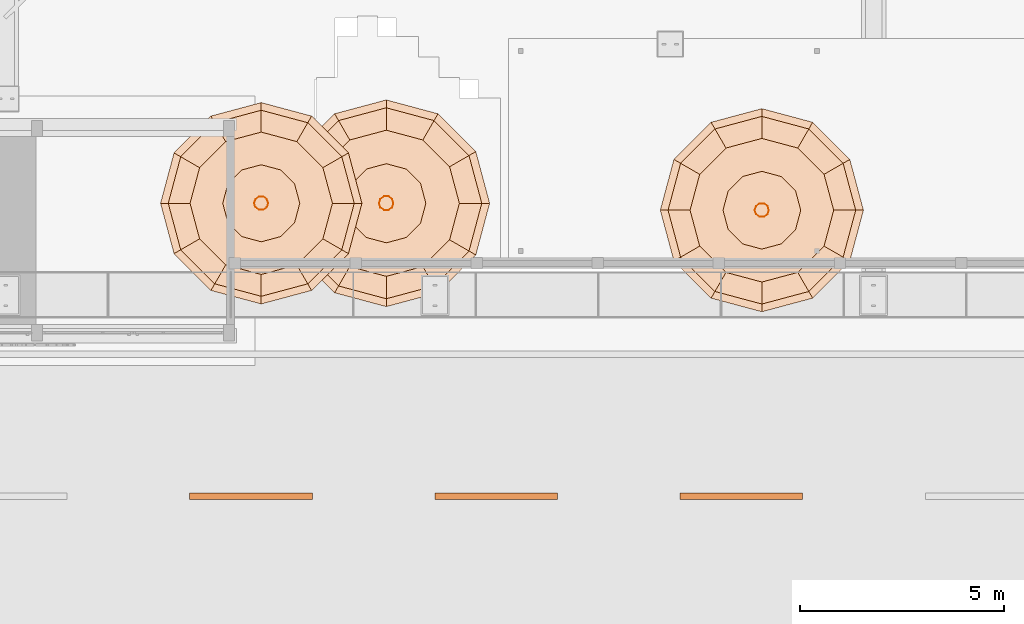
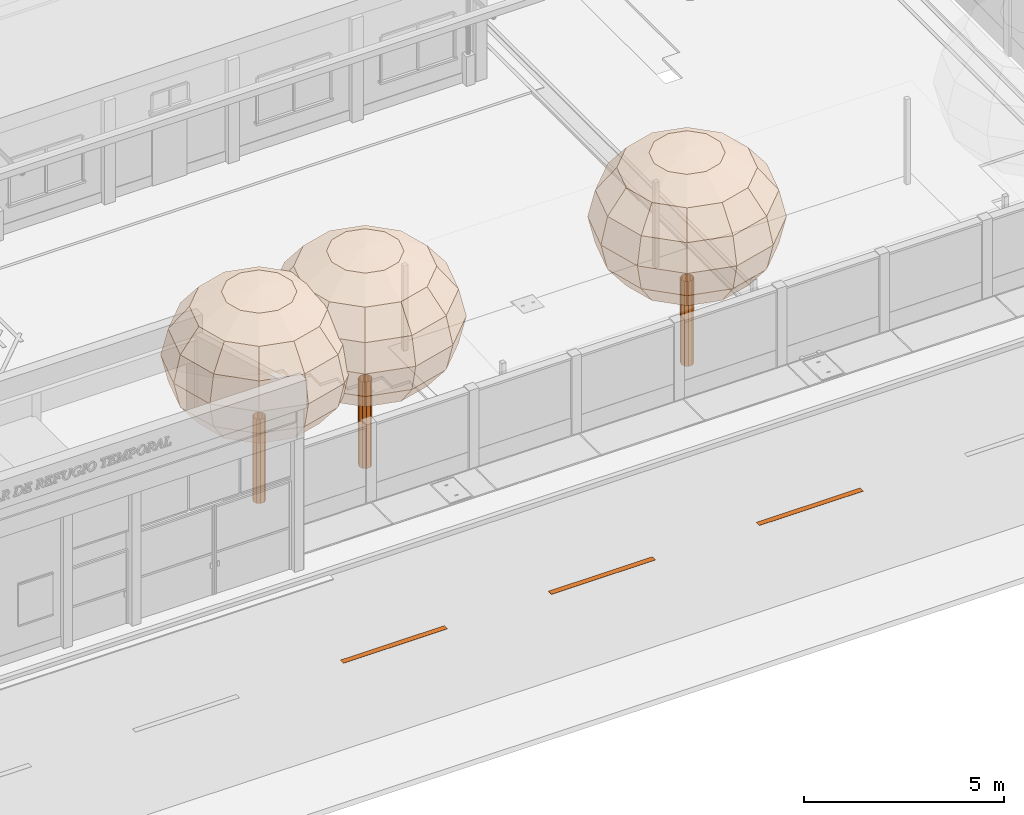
# One storey, part 157 of 177: 6 geographic elements, 3 proxies.
"""IFC4 building model written with IfcOpenShell, lengths in metres."""

from ifc_helpers import new_model, si_unit, origin, origin_with_axes, place, context, subcontext, project, spatial, triangles, element, save


model = new_model("IFC4")

# Units and contexts
model_context = context("Model", 3, precision=1e-05, world=origin_with_axes())
body_context = subcontext(model_context, "Body", "Model", "MODEL_VIEW")
ifc_project = project(units=[si_unit("LENGTHUNIT", "METRE"), si_unit("AREAUNIT", "SQUARE_METRE"), si_unit("VOLUMEUNIT", "CUBIC_METRE"), si_unit("PLANEANGLEUNIT", "RADIAN")], contexts=[model_context])

# Site, building, storey
site_placement = place(None, origin_with_axes())
site = spatial("IfcSite", under=ifc_project, at=site_placement, Name="Predio Los Mangos - Morales, San Martín", CompositionType="ELEMENT")
building_placement = place(site_placement, origin())
building = spatial("IfcBuilding", under=site, at=building_placement, Name="Hogar de Refugio Temporal", CompositionType="ELEMENT")
storey_placement = place(building_placement, origin())
storey = spatial("IfcBuildingStorey", under=building, at=storey_placement, Name="NIVEL 1 (NPT +0.00)", CompositionType="ELEMENT", Elevation=0.0)

# Proxies
proxy_1_placement = place(storey_placement, origin())
element("IfcBuildingElementProxy", 1, at=proxy_1_placement, inside=storey, Name="linea_carril", ObjectType="Losa deportiva y vía", PredefinedType="NOTDEFINED", context=body_context, shape_type="Tessellation", body=[
    triangles([(44.0, 12.22, 0.02), (47.0, 12.22, 0.02), (47.0, 12.38, 0.02), (44.0, 12.38, 0.02), (44.0, 12.22, 0.025), (47.0, 12.22, 0.025), (47.0, 12.38, 0.025), (44.0, 12.38, 0.025)], [[1, 4, 3], [1, 3, 2], [5, 6, 7], [5, 7, 8], [1, 2, 6], [1, 6, 5], [2, 3, 7], [2, 7, 6], [3, 4, 8], [3, 8, 7], [4, 1, 5], [4, 5, 8]]),
])
proxy_2_placement = place(storey_placement, origin())
element("IfcBuildingElementProxy", 2, at=proxy_2_placement, inside=storey, Name="linea_carril", ObjectType="Losa deportiva y vía", PredefinedType="NOTDEFINED", context=body_context, shape_type="Tessellation", body=[
    triangles([(50.0, 12.22, 0.02), (53.0, 12.22, 0.02), (53.0, 12.38, 0.02), (50.0, 12.38, 0.02), (50.0, 12.22, 0.025), (53.0, 12.22, 0.025), (53.0, 12.38, 0.025), (50.0, 12.38, 0.025)], [[1, 4, 3], [1, 3, 2], [5, 6, 7], [5, 7, 8], [1, 2, 6], [1, 6, 5], [2, 3, 7], [2, 7, 6], [3, 4, 8], [3, 8, 7], [4, 1, 5], [4, 5, 8]]),
])
proxy_3_placement = place(storey_placement, origin())
element("IfcBuildingElementProxy", 3, at=proxy_3_placement, inside=storey, Name="linea_carril", ObjectType="Losa deportiva y vía", PredefinedType="NOTDEFINED", context=body_context, shape_type="Tessellation", body=[
    triangles([(56.0, 12.22, 0.02), (59.0, 12.22, 0.02), (59.0, 12.38, 0.02), (56.0, 12.38, 0.02), (56.0, 12.22, 0.025), (59.0, 12.22, 0.025), (59.0, 12.38, 0.025), (56.0, 12.38, 0.025)], [[1, 4, 3], [1, 3, 2], [5, 6, 7], [5, 7, 8], [1, 2, 6], [1, 6, 5], [2, 3, 7], [2, 7, 6], [3, 4, 8], [3, 8, 7], [4, 1, 5], [4, 5, 8]]),
])

# Geographic elements
geographic_element_1_placement = place(storey_placement, origin())
element("IfcGeographicElement", 4, at=geographic_element_1_placement, inside=storey, Name="arbol_tronco", ObjectType="Árbol", PredefinedType="NOTDEFINED", context=body_context, shape_type="Tessellation", body=[
    triangles([(48.9859, 19.47, 0.0), (48.9523, 19.5734, 0.0), (48.8644, 19.6373, 0.0), (48.7556, 19.6373, 0.0), (48.6677, 19.5734, 0.0), (48.6341, 19.47, 0.0), (48.6677, 19.3666, 0.0), (48.7556, 19.3027, 0.0), (48.8644, 19.3027, 0.0), (48.9523, 19.3666, 0.0), (48.9859, 19.47, 2.6388), (48.9523, 19.5734, 2.6388), (48.8644, 19.6373, 2.6388), (48.7556, 19.6373, 2.6388), (48.6677, 19.5734, 2.6388), (48.6341, 19.47, 2.6388), (48.6677, 19.3666, 2.6388), (48.7556, 19.3027, 2.6388), (48.8644, 19.3027, 2.6388), (48.9523, 19.3666, 2.6388)], [[1, 2, 12], [2, 3, 13], [3, 4, 14], [4, 5, 15], [5, 6, 16], [6, 7, 17], [7, 8, 18], [8, 9, 19], [9, 10, 20], [10, 1, 11], [1, 12, 11], [2, 13, 12], [3, 14, 13], [4, 15, 14], [5, 16, 15], [6, 17, 16], [7, 18, 17], [8, 19, 18], [9, 20, 19], [10, 11, 20]]),
])
geographic_element_2_placement = place(storey_placement, origin())
element("IfcGeographicElement", 5, at=geographic_element_2_placement, inside=storey, Name="arbol_copa", ObjectType="Árbol", PredefinedType="NOTDEFINED", context=body_context, shape_type="Tessellation", body=[
    triangles([(48.81, 19.47, 6.6851), (48.81, 19.47, 6.6851), (48.81, 19.47, 6.6851), (48.81, 19.47, 6.6851), (48.81, 19.47, 6.6851), (48.81, 19.47, 6.6851), (48.81, 19.47, 6.6851), (48.81, 19.47, 6.6851), (48.81, 19.47, 6.6851), (48.81, 19.47, 6.6851), (48.81, 19.47, 6.6851), (48.81, 19.47, 6.6851), (49.7778, 19.47, 6.5215), (49.6481, 19.9539, 6.5215), (49.2939, 20.3081, 6.5215), (48.81, 20.4378, 6.5215), (48.3261, 20.3081, 6.5215), (47.9719, 19.9539, 6.5215), (47.8422, 19.47, 6.5215), (47.9719, 18.9861, 6.5215), (48.3261, 18.6319, 6.5215), (48.81, 18.5022, 6.5215), (49.2939, 18.6319, 6.5215), (49.6481, 18.9861, 6.5215), (50.5982, 19.47, 6.0555), (50.3586, 20.3641, 6.0555), (49.7041, 21.0186, 6.0555), (48.81, 21.2582, 6.0555), (47.9159, 21.0186, 6.0555), (47.2614, 20.3641, 6.0555), (47.0218, 19.47, 6.0555), (47.2614, 18.5759, 6.0555), (47.9159, 17.9214, 6.0555), (48.81, 17.6818, 6.0555), (49.7041, 17.9214, 6.0555), (50.3586, 18.5759, 6.0555), (51.1464, 19.47, 5.3581), (50.8334, 20.6382, 5.3581), (49.9782, 21.4934, 5.3581), (48.81, 21.8064, 5.3581), (47.6418, 21.4934, 5.3581), (46.7866, 20.6382, 5.3581), (46.4736, 19.47, 5.3581), (46.7866, 18.3018, 5.3581), (47.6418, 17.4466, 5.3581), (48.81, 17.1336, 5.3581), (49.9782, 17.4466, 5.3581), (50.8334, 18.3018, 5.3581), (51.3389, 19.47, 4.5355), (51.0001, 20.7344, 4.5355), (50.0744, 21.6601, 4.5355), (48.81, 21.9989, 4.5355), (47.5456, 21.6601, 4.5355), (46.6199, 20.7344, 4.5355), (46.2811, 19.47, 4.5355), (46.6199, 18.2056, 4.5355), (47.5456, 17.2799, 4.5355), (48.81, 16.9411, 4.5355), (50.0744, 17.2799, 4.5355), (51.0001, 18.2056, 4.5355), (51.1464, 19.47, 3.7129), (50.8334, 20.6382, 3.7129), (49.9782, 21.4934, 3.7129), (48.81, 21.8064, 3.7129), (47.6418, 21.4934, 3.7129), (46.7866, 20.6382, 3.7129), (46.4736, 19.47, 3.7129), (46.7866, 18.3018, 3.7129), (47.6418, 17.4466, 3.7129), (48.81, 17.1336, 3.7129), (49.9782, 17.4466, 3.7129), (50.8334, 18.3018, 3.7129), (50.5982, 19.47, 3.0156), (50.3586, 20.3641, 3.0156), (49.7041, 21.0186, 3.0156), (48.81, 21.2582, 3.0156), (47.9159, 21.0186, 3.0156), (47.2614, 20.3641, 3.0156), (47.0218, 19.47, 3.0156), (47.2614, 18.5759, 3.0156), (47.9159, 17.9214, 3.0156), (48.81, 17.6818, 3.0156), (49.7041, 17.9214, 3.0156), (50.3586, 18.5759, 3.0156), (49.7778, 19.47, 2.5496), (49.6481, 19.9539, 2.5496), (49.2939, 20.3081, 2.5496), (48.81, 20.4378, 2.5496), (48.3261, 20.3081, 2.5496), (47.9719, 19.9539, 2.5496), (47.8422, 19.47, 2.5496), (47.9719, 18.9861, 2.5496), (48.3261, 18.6319, 2.5496), (48.81, 18.5022, 2.5496), (49.2939, 18.6319, 2.5496), (49.6481, 18.9861, 2.5496), (48.81, 19.47, 2.386), (48.81, 19.47, 2.386), (48.81, 19.47, 2.386), (48.81, 19.47, 2.386), (48.81, 19.47, 2.386), (48.81, 19.47, 2.386), (48.81, 19.47, 2.386), (48.81, 19.47, 2.386), (48.81, 19.47, 2.386), (48.81, 19.47, 2.386), (48.81, 19.47, 2.386), (48.81, 19.47, 2.386)], [[1, 2, 14], [1, 14, 13], [2, 3, 15], [2, 15, 14], [3, 4, 16], [3, 16, 15], [4, 5, 17], [4, 17, 16], [5, 6, 18], [5, 18, 17], [6, 7, 19], [6, 19, 18], [7, 8, 20], [7, 20, 19], [8, 9, 21], [8, 21, 20], [9, 10, 22], [9, 22, 21], [10, 11, 23], [10, 23, 22], [11, 12, 24], [11, 24, 23], [12, 1, 13], [12, 13, 24], [13, 14, 26], [13, 26, 25], [14, 15, 27], [14, 27, 26], [15, 16, 28], [15, 28, 27], [16, 17, 29], [16, 29, 28], [17, 18, 30], [17, 30, 29], [18, 19, 31], [18, 31, 30], [19, 20, 32], [19, 32, 31], [20, 21, 33], [20, 33, 32], [21, 22, 34], [21, 34, 33], [22, 23, 35], [22, 35, 34], [23, 24, 36], [23, 36, 35], [24, 13, 25], [24, 25, 36], [25, 26, 38], [25, 38, 37], [26, 27, 39], [26, 39, 38], [27, 28, 40], [27, 40, 39], [28, 29, 41], [28, 41, 40], [29, 30, 42], [29, 42, 41], [30, 31, 43], [30, 43, 42], [31, 32, 44], [31, 44, 43], [32, 33, 45], [32, 45, 44], [33, 34, 46], [33, 46, 45], [34, 35, 47], [34, 47, 46], [35, 36, 48], [35, 48, 47], [36, 25, 37], [36, 37, 48], [37, 38, 50], [37, 50, 49], [38, 39, 51], [38, 51, 50], [39, 40, 52], [39, 52, 51], [40, 41, 53], [40, 53, 52], [41, 42, 54], [41, 54, 53], [42, 43, 55], [42, 55, 54], [43, 44, 56], [43, 56, 55], [44, 45, 57], [44, 57, 56], [45, 46, 58], [45, 58, 57], [46, 47, 59], [46, 59, 58], [47, 48, 60], [47, 60, 59], [48, 37, 49], [48, 49, 60], [49, 50, 62], [49, 62, 61], [50, 51, 63], [50, 63, 62], [51, 52, 64], [51, 64, 63], [52, 53, 65], [52, 65, 64], [53, 54, 66], [53, 66, 65], [54, 55, 67], [54, 67, 66], [55, 56, 68], [55, 68, 67], [56, 57, 69], [56, 69, 68], [57, 58, 70], [57, 70, 69], [58, 59, 71], [58, 71, 70], [59, 60, 72], [59, 72, 71], [60, 49, 61], [60, 61, 72], [61, 62, 74], [61, 74, 73], [62, 63, 75], [62, 75, 74], [63, 64, 76], [63, 76, 75], [64, 65, 77], [64, 77, 76], [65, 66, 78], [65, 78, 77], [66, 67, 79], [66, 79, 78], [67, 68, 80], [67, 80, 79], [68, 69, 81], [68, 81, 80], [69, 70, 82], [69, 82, 81], [70, 71, 83], [70, 83, 82], [71, 72, 84], [71, 84, 83], [72, 61, 73], [72, 73, 84], [73, 74, 86], [73, 86, 85], [74, 75, 87], [74, 87, 86], [75, 76, 88], [75, 88, 87], [76, 77, 89], [76, 89, 88], [77, 78, 90], [77, 90, 89], [78, 79, 91], [78, 91, 90], [79, 80, 92], [79, 92, 91], [80, 81, 93], [80, 93, 92], [81, 82, 94], [81, 94, 93], [82, 83, 95], [82, 95, 94], [83, 84, 96], [83, 96, 95], [84, 73, 85], [84, 85, 96], [85, 86, 98], [85, 98, 97], [86, 87, 99], [86, 99, 98], [87, 88, 100], [87, 100, 99], [88, 89, 101], [88, 101, 100], [89, 90, 102], [89, 102, 101], [90, 91, 103], [90, 103, 102], [91, 92, 104], [91, 104, 103], [92, 93, 105], [92, 105, 104], [93, 94, 106], [93, 106, 105], [94, 95, 107], [94, 107, 106], [95, 96, 108], [95, 108, 107], [96, 85, 97], [96, 97, 108]]),
])
geographic_element_3_placement = place(storey_placement, origin())
element("IfcGeographicElement", 6, at=geographic_element_3_placement, inside=storey, Name="arbol_tronco", ObjectType="Árbol", PredefinedType="NOTDEFINED", context=body_context, shape_type="Tessellation", body=[
    triangles([(45.9214, 19.47, 0.0), (45.8886, 19.5707, 0.0), (45.803, 19.633, 0.0), (45.697, 19.633, 0.0), (45.6114, 19.5707, 0.0), (45.5786, 19.47, 0.0), (45.6114, 19.3693, 0.0), (45.697, 19.307, 0.0), (45.803, 19.307, 0.0), (45.8886, 19.3693, 0.0), (45.9214, 19.47, 2.5706), (45.8886, 19.5707, 2.5706), (45.803, 19.633, 2.5706), (45.697, 19.633, 2.5706), (45.6114, 19.5707, 2.5706), (45.5786, 19.47, 2.5706), (45.6114, 19.3693, 2.5706), (45.697, 19.307, 2.5706), (45.803, 19.307, 2.5706), (45.8886, 19.3693, 2.5706)], [[1, 2, 12], [2, 3, 13], [3, 4, 14], [4, 5, 15], [5, 6, 16], [6, 7, 17], [7, 8, 18], [8, 9, 19], [9, 10, 20], [10, 1, 11], [1, 12, 11], [2, 13, 12], [3, 14, 13], [4, 15, 14], [5, 16, 15], [6, 17, 16], [7, 18, 17], [8, 19, 18], [9, 20, 19], [10, 11, 20]]),
])
geographic_element_4_placement = place(storey_placement, origin())
element("IfcGeographicElement", 7, at=geographic_element_4_placement, inside=storey, Name="arbol_copa", ObjectType="Árbol", PredefinedType="NOTDEFINED", context=body_context, shape_type="Tessellation", body=[
    triangles([(45.75, 19.47, 6.5122), (45.75, 19.47, 6.5122), (45.75, 19.47, 6.5122), (45.75, 19.47, 6.5122), (45.75, 19.47, 6.5122), (45.75, 19.47, 6.5122), (45.75, 19.47, 6.5122), (45.75, 19.47, 6.5122), (45.75, 19.47, 6.5122), (45.75, 19.47, 6.5122), (45.75, 19.47, 6.5122), (45.75, 19.47, 6.5122), (46.6927, 19.47, 6.3528), (46.5664, 19.9414, 6.3528), (46.2214, 20.2864, 6.3528), (45.75, 20.4127, 6.3528), (45.2786, 20.2864, 6.3528), (44.9336, 19.9414, 6.3528), (44.8073, 19.47, 6.3528), (44.9336, 18.9986, 6.3528), (45.2786, 18.6536, 6.3528), (45.75, 18.5273, 6.3528), (46.2214, 18.6536, 6.3528), (46.5664, 18.9986, 6.3528), (47.492, 19.47, 5.8989), (47.2586, 20.341, 5.8989), (46.621, 20.9786, 5.8989), (45.75, 21.212, 5.8989), (44.879, 20.9786, 5.8989), (44.2414, 20.341, 5.8989), (44.008, 19.47, 5.8989), (44.2414, 18.599, 5.8989), (44.879, 17.9614, 5.8989), (45.75, 17.728, 5.8989), (46.621, 17.9614, 5.8989), (47.2586, 18.599, 5.8989), (48.026, 19.47, 5.2196), (47.7211, 20.608, 5.2196), (46.888, 21.4411, 5.2196), (45.75, 21.746, 5.2196), (44.612, 21.4411, 5.2196), (43.7789, 20.608, 5.2196), (43.474, 19.47, 5.2196), (43.7789, 18.332, 5.2196), (44.612, 17.4989, 5.2196), (45.75, 17.194, 5.2196), (46.888, 17.4989, 5.2196), (47.7211, 18.332, 5.2196), (48.2135, 19.47, 4.4183), (47.8835, 20.7018, 4.4183), (46.9818, 21.6035, 4.4183), (45.75, 21.9335, 4.4183), (44.5182, 21.6035, 4.4183), (43.6165, 20.7018, 4.4183), (43.2865, 19.47, 4.4183), (43.6165, 18.2382, 4.4183), (44.5182, 17.3365, 4.4183), (45.75, 17.0065, 4.4183), (46.9818, 17.3365, 4.4183), (47.8835, 18.2382, 4.4183), (48.026, 19.47, 3.6169), (47.7211, 20.608, 3.6169), (46.888, 21.4411, 3.6169), (45.75, 21.746, 3.6169), (44.612, 21.4411, 3.6169), (43.7789, 20.608, 3.6169), (43.474, 19.47, 3.6169), (43.7789, 18.332, 3.6169), (44.612, 17.4989, 3.6169), (45.75, 17.194, 3.6169), (46.888, 17.4989, 3.6169), (47.7211, 18.332, 3.6169), (47.492, 19.47, 2.9376), (47.2586, 20.341, 2.9376), (46.621, 20.9786, 2.9376), (45.75, 21.212, 2.9376), (44.879, 20.9786, 2.9376), (44.2414, 20.341, 2.9376), (44.008, 19.47, 2.9376), (44.2414, 18.599, 2.9376), (44.879, 17.9614, 2.9376), (45.75, 17.728, 2.9376), (46.621, 17.9614, 2.9376), (47.2586, 18.599, 2.9376), (46.6927, 19.47, 2.4837), (46.5664, 19.9414, 2.4837), (46.2214, 20.2864, 2.4837), (45.75, 20.4127, 2.4837), (45.2786, 20.2864, 2.4837), (44.9336, 19.9414, 2.4837), (44.8073, 19.47, 2.4837), (44.9336, 18.9986, 2.4837), (45.2786, 18.6536, 2.4837), (45.75, 18.5273, 2.4837), (46.2214, 18.6536, 2.4837), (46.5664, 18.9986, 2.4837), (45.75, 19.47, 2.3243), (45.75, 19.47, 2.3243), (45.75, 19.47, 2.3243), (45.75, 19.47, 2.3243), (45.75, 19.47, 2.3243), (45.75, 19.47, 2.3243), (45.75, 19.47, 2.3243), (45.75, 19.47, 2.3243), (45.75, 19.47, 2.3243), (45.75, 19.47, 2.3243), (45.75, 19.47, 2.3243), (45.75, 19.47, 2.3243)], [[1, 2, 14], [1, 14, 13], [2, 3, 15], [2, 15, 14], [3, 4, 16], [3, 16, 15], [4, 5, 17], [4, 17, 16], [5, 6, 18], [5, 18, 17], [6, 7, 19], [6, 19, 18], [7, 8, 20], [7, 20, 19], [8, 9, 21], [8, 21, 20], [9, 10, 22], [9, 22, 21], [10, 11, 23], [10, 23, 22], [11, 12, 24], [11, 24, 23], [12, 1, 13], [12, 13, 24], [13, 14, 26], [13, 26, 25], [14, 15, 27], [14, 27, 26], [15, 16, 28], [15, 28, 27], [16, 17, 29], [16, 29, 28], [17, 18, 30], [17, 30, 29], [18, 19, 31], [18, 31, 30], [19, 20, 32], [19, 32, 31], [20, 21, 33], [20, 33, 32], [21, 22, 34], [21, 34, 33], [22, 23, 35], [22, 35, 34], [23, 24, 36], [23, 36, 35], [24, 13, 25], [24, 25, 36], [25, 26, 38], [25, 38, 37], [26, 27, 39], [26, 39, 38], [27, 28, 40], [27, 40, 39], [28, 29, 41], [28, 41, 40], [29, 30, 42], [29, 42, 41], [30, 31, 43], [30, 43, 42], [31, 32, 44], [31, 44, 43], [32, 33, 45], [32, 45, 44], [33, 34, 46], [33, 46, 45], [34, 35, 47], [34, 47, 46], [35, 36, 48], [35, 48, 47], [36, 25, 37], [36, 37, 48], [37, 38, 50], [37, 50, 49], [38, 39, 51], [38, 51, 50], [39, 40, 52], [39, 52, 51], [40, 41, 53], [40, 53, 52], [41, 42, 54], [41, 54, 53], [42, 43, 55], [42, 55, 54], [43, 44, 56], [43, 56, 55], [44, 45, 57], [44, 57, 56], [45, 46, 58], [45, 58, 57], [46, 47, 59], [46, 59, 58], [47, 48, 60], [47, 60, 59], [48, 37, 49], [48, 49, 60], [49, 50, 62], [49, 62, 61], [50, 51, 63], [50, 63, 62], [51, 52, 64], [51, 64, 63], [52, 53, 65], [52, 65, 64], [53, 54, 66], [53, 66, 65], [54, 55, 67], [54, 67, 66], [55, 56, 68], [55, 68, 67], [56, 57, 69], [56, 69, 68], [57, 58, 70], [57, 70, 69], [58, 59, 71], [58, 71, 70], [59, 60, 72], [59, 72, 71], [60, 49, 61], [60, 61, 72], [61, 62, 74], [61, 74, 73], [62, 63, 75], [62, 75, 74], [63, 64, 76], [63, 76, 75], [64, 65, 77], [64, 77, 76], [65, 66, 78], [65, 78, 77], [66, 67, 79], [66, 79, 78], [67, 68, 80], [67, 80, 79], [68, 69, 81], [68, 81, 80], [69, 70, 82], [69, 82, 81], [70, 71, 83], [70, 83, 82], [71, 72, 84], [71, 84, 83], [72, 61, 73], [72, 73, 84], [73, 74, 86], [73, 86, 85], [74, 75, 87], [74, 87, 86], [75, 76, 88], [75, 88, 87], [76, 77, 89], [76, 89, 88], [77, 78, 90], [77, 90, 89], [78, 79, 91], [78, 91, 90], [79, 80, 92], [79, 92, 91], [80, 81, 93], [80, 93, 92], [81, 82, 94], [81, 94, 93], [82, 83, 95], [82, 95, 94], [83, 84, 96], [83, 96, 95], [84, 73, 85], [84, 85, 96], [85, 86, 98], [85, 98, 97], [86, 87, 99], [86, 99, 98], [87, 88, 100], [87, 100, 99], [88, 89, 101], [88, 101, 100], [89, 90, 102], [89, 102, 101], [90, 91, 103], [90, 103, 102], [91, 92, 104], [91, 104, 103], [92, 93, 105], [92, 105, 104], [93, 94, 106], [93, 106, 105], [94, 95, 107], [94, 107, 106], [95, 96, 108], [95, 108, 107], [96, 85, 97], [96, 97, 108]]),
])
geographic_element_5_placement = place(storey_placement, origin())
element("IfcGeographicElement", 8, at=geographic_element_5_placement, inside=storey, Name="arbol_tronco", ObjectType="Árbol", PredefinedType="NOTDEFINED", context=body_context, shape_type="Tessellation", body=[
    triangles([(58.1729, 19.3, 0.0), (58.1399, 19.4016, 0.0), (58.0534, 19.4644, 0.0), (57.9466, 19.4644, 0.0), (57.8601, 19.4016, 0.0), (57.8271, 19.3, 0.0), (57.8601, 19.1984, 0.0), (57.9466, 19.1356, 0.0), (58.0534, 19.1356, 0.0), (58.1399, 19.1984, 0.0), (58.1729, 19.3, 2.593), (58.1399, 19.4016, 2.593), (58.0534, 19.4644, 2.593), (57.9466, 19.4644, 2.593), (57.8601, 19.4016, 2.593), (57.8271, 19.3, 2.593), (57.8601, 19.1984, 2.593), (57.9466, 19.1356, 2.593), (58.0534, 19.1356, 2.593), (58.1399, 19.1984, 2.593)], [[1, 2, 12], [2, 3, 13], [3, 4, 14], [4, 5, 15], [5, 6, 16], [6, 7, 17], [7, 8, 18], [8, 9, 19], [9, 10, 20], [10, 1, 11], [1, 12, 11], [2, 13, 12], [3, 14, 13], [4, 15, 14], [5, 16, 15], [6, 17, 16], [7, 18, 17], [8, 19, 18], [9, 20, 19], [10, 11, 20]]),
])
geographic_element_6_placement = place(storey_placement, origin())
element("IfcGeographicElement", 9, at=geographic_element_6_placement, inside=storey, Name="arbol_copa", ObjectType="Árbol", PredefinedType="NOTDEFINED", context=body_context, shape_type="Tessellation", body=[
    triangles([(58.0, 19.3, 6.5689), (58.0, 19.3, 6.5689), (58.0, 19.3, 6.5689), (58.0, 19.3, 6.5689), (58.0, 19.3, 6.5689), (58.0, 19.3, 6.5689), (58.0, 19.3, 6.5689), (58.0, 19.3, 6.5689), (58.0, 19.3, 6.5689), (58.0, 19.3, 6.5689), (58.0, 19.3, 6.5689), (58.0, 19.3, 6.5689), (58.951, 19.3, 6.4081), (58.8235, 19.7755, 6.4081), (58.4755, 20.1235, 6.4081), (58.0, 20.251, 6.4081), (57.5245, 20.1235, 6.4081), (57.1765, 19.7755, 6.4081), (57.049, 19.3, 6.4081), (57.1765, 18.8245, 6.4081), (57.5245, 18.4765, 6.4081), (58.0, 18.349, 6.4081), (58.4755, 18.4765, 6.4081), (58.8235, 18.8245, 6.4081), (59.7571, 19.3, 5.9503), (59.5217, 20.1786, 5.9503), (58.8786, 20.8217, 5.9503), (58.0, 21.0571, 5.9503), (57.1214, 20.8217, 5.9503), (56.4783, 20.1786, 5.9503), (56.2429, 19.3, 5.9503), (56.4783, 18.4214, 5.9503), (57.1214, 17.7783, 5.9503), (58.0, 17.5429, 5.9503), (58.8786, 17.7783, 5.9503), (59.5217, 18.4214, 5.9503), (60.2958, 19.3, 5.265), (59.9882, 20.4479, 5.265), (59.1479, 21.2882, 5.265), (58.0, 21.5958, 5.265), (56.8521, 21.2882, 5.265), (56.0118, 20.4479, 5.265), (55.7042, 19.3, 5.265), (56.0118, 18.1521, 5.265), (56.8521, 17.3118, 5.265), (58.0, 17.0042, 5.265), (59.1479, 17.3118, 5.265), (59.9882, 18.1521, 5.265), (60.485, 19.3, 4.4567), (60.152, 20.5425, 4.4567), (59.2425, 21.452, 4.4567), (58.0, 21.785, 4.4567), (56.7575, 21.452, 4.4567), (55.848, 20.5425, 4.4567), (55.515, 19.3, 4.4567), (55.848, 18.0575, 4.4567), (56.7575, 17.148, 4.4567), (58.0, 16.815, 4.4567), (59.2425, 17.148, 4.4567), (60.152, 18.0575, 4.4567), (60.2958, 19.3, 3.6484), (59.9882, 20.4479, 3.6484), (59.1479, 21.2882, 3.6484), (58.0, 21.5958, 3.6484), (56.8521, 21.2882, 3.6484), (56.0118, 20.4479, 3.6484), (55.7042, 19.3, 3.6484), (56.0118, 18.1521, 3.6484), (56.8521, 17.3118, 3.6484), (58.0, 17.0042, 3.6484), (59.1479, 17.3118, 3.6484), (59.9882, 18.1521, 3.6484), (59.7571, 19.3, 2.9632), (59.5217, 20.1786, 2.9632), (58.8786, 20.8217, 2.9632), (58.0, 21.0571, 2.9632), (57.1214, 20.8217, 2.9632), (56.4783, 20.1786, 2.9632), (56.2429, 19.3, 2.9632), (56.4783, 18.4214, 2.9632), (57.1214, 17.7783, 2.9632), (58.0, 17.5429, 2.9632), (58.8786, 17.7783, 2.9632), (59.5217, 18.4214, 2.9632), (58.951, 19.3, 2.5053), (58.8235, 19.7755, 2.5053), (58.4755, 20.1235, 2.5053), (58.0, 20.251, 2.5053), (57.5245, 20.1235, 2.5053), (57.1765, 19.7755, 2.5053), (57.049, 19.3, 2.5053), (57.1765, 18.8245, 2.5053), (57.5245, 18.4765, 2.5053), (58.0, 18.349, 2.5053), (58.4755, 18.4765, 2.5053), (58.8235, 18.8245, 2.5053), (58.0, 19.3, 2.3445), (58.0, 19.3, 2.3445), (58.0, 19.3, 2.3445), (58.0, 19.3, 2.3445), (58.0, 19.3, 2.3445), (58.0, 19.3, 2.3445), (58.0, 19.3, 2.3445), (58.0, 19.3, 2.3445), (58.0, 19.3, 2.3445), (58.0, 19.3, 2.3445), (58.0, 19.3, 2.3445), (58.0, 19.3, 2.3445)], [[1, 2, 14], [1, 14, 13], [2, 3, 15], [2, 15, 14], [3, 4, 16], [3, 16, 15], [4, 5, 17], [4, 17, 16], [5, 6, 18], [5, 18, 17], [6, 7, 19], [6, 19, 18], [7, 8, 20], [7, 20, 19], [8, 9, 21], [8, 21, 20], [9, 10, 22], [9, 22, 21], [10, 11, 23], [10, 23, 22], [11, 12, 24], [11, 24, 23], [12, 1, 13], [12, 13, 24], [13, 14, 26], [13, 26, 25], [14, 15, 27], [14, 27, 26], [15, 16, 28], [15, 28, 27], [16, 17, 29], [16, 29, 28], [17, 18, 30], [17, 30, 29], [18, 19, 31], [18, 31, 30], [19, 20, 32], [19, 32, 31], [20, 21, 33], [20, 33, 32], [21, 22, 34], [21, 34, 33], [22, 23, 35], [22, 35, 34], [23, 24, 36], [23, 36, 35], [24, 13, 25], [24, 25, 36], [25, 26, 38], [25, 38, 37], [26, 27, 39], [26, 39, 38], [27, 28, 40], [27, 40, 39], [28, 29, 41], [28, 41, 40], [29, 30, 42], [29, 42, 41], [30, 31, 43], [30, 43, 42], [31, 32, 44], [31, 44, 43], [32, 33, 45], [32, 45, 44], [33, 34, 46], [33, 46, 45], [34, 35, 47], [34, 47, 46], [35, 36, 48], [35, 48, 47], [36, 25, 37], [36, 37, 48], [37, 38, 50], [37, 50, 49], [38, 39, 51], [38, 51, 50], [39, 40, 52], [39, 52, 51], [40, 41, 53], [40, 53, 52], [41, 42, 54], [41, 54, 53], [42, 43, 55], [42, 55, 54], [43, 44, 56], [43, 56, 55], [44, 45, 57], [44, 57, 56], [45, 46, 58], [45, 58, 57], [46, 47, 59], [46, 59, 58], [47, 48, 60], [47, 60, 59], [48, 37, 49], [48, 49, 60], [49, 50, 62], [49, 62, 61], [50, 51, 63], [50, 63, 62], [51, 52, 64], [51, 64, 63], [52, 53, 65], [52, 65, 64], [53, 54, 66], [53, 66, 65], [54, 55, 67], [54, 67, 66], [55, 56, 68], [55, 68, 67], [56, 57, 69], [56, 69, 68], [57, 58, 70], [57, 70, 69], [58, 59, 71], [58, 71, 70], [59, 60, 72], [59, 72, 71], [60, 49, 61], [60, 61, 72], [61, 62, 74], [61, 74, 73], [62, 63, 75], [62, 75, 74], [63, 64, 76], [63, 76, 75], [64, 65, 77], [64, 77, 76], [65, 66, 78], [65, 78, 77], [66, 67, 79], [66, 79, 78], [67, 68, 80], [67, 80, 79], [68, 69, 81], [68, 81, 80], [69, 70, 82], [69, 82, 81], [70, 71, 83], [70, 83, 82], [71, 72, 84], [71, 84, 83], [72, 61, 73], [72, 73, 84], [73, 74, 86], [73, 86, 85], [74, 75, 87], [74, 87, 86], [75, 76, 88], [75, 88, 87], [76, 77, 89], [76, 89, 88], [77, 78, 90], [77, 90, 89], [78, 79, 91], [78, 91, 90], [79, 80, 92], [79, 92, 91], [80, 81, 93], [80, 93, 92], [81, 82, 94], [81, 94, 93], [82, 83, 95], [82, 95, 94], [83, 84, 96], [83, 96, 95], [84, 73, 85], [84, 85, 96], [85, 86, 98], [85, 98, 97], [86, 87, 99], [86, 99, 98], [87, 88, 100], [87, 100, 99], [88, 89, 101], [88, 101, 100], [89, 90, 102], [89, 102, 101], [90, 91, 103], [90, 103, 102], [91, 92, 104], [91, 104, 103], [92, 93, 105], [92, 105, 104], [93, 94, 106], [93, 106, 105], [94, 95, 107], [94, 107, 106], [95, 96, 108], [95, 108, 107], [96, 85, 97], [96, 97, 108]]),
])

save(model, "model.ifc")
